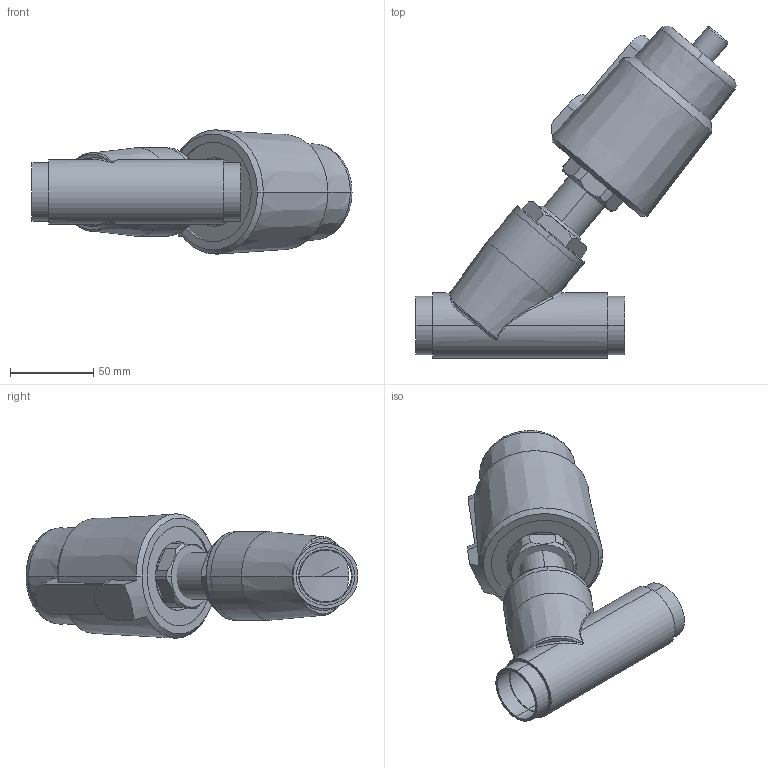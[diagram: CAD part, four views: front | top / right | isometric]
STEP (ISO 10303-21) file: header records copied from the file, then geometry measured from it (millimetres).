
FILE_DESCRIPTION (( 'STEP AP203' ), '1' );
FILE_NAME ('63缸DN32焊接11850-2新体.STEP', '2021-08-27T03:34:55', ( '微软用户' ), ( '微软中国' ), 'SwSTEP 2.0', 'SolidWorks 2017', '' );
FILE_SCHEMA (( 'CONFIG_CONTROL_DESIGN' ));
Length unit declared in the file: millimetre
Products named in the file (3): 63詰DN32爾諉11850-2陔极; 63詰DN32爾諉陔极奻僇; 633201陔极11850-2
Assembly tree (2 placements, depth 2):
  63詰DN32爾諉11850-2陔极
    633201陔极11850-2
    63詰DN32爾諉陔极奻僇
Bounding box: 191.81 x 198.98 x 74.55 mm (x, y, z)
Volume: 416420 mm3; surface area: 103210.9 mm2
Topology: 5 solids, 5 shells, 162 faces, 404 edges, 264 vertices
Faces by surface type: plane 55, cone 49, cylinder 40, bspline 12, torus 6
Entity records: 7032 total; most frequent: CARTESIAN_POINT 2916, DIRECTION 806, ORIENTED_EDGE 804, EDGE_CURVE 402, AXIS2_PLACEMENT_3D 335, VERTEX_POINT 264, CIRCLE 180, EDGE_LOOP 178
